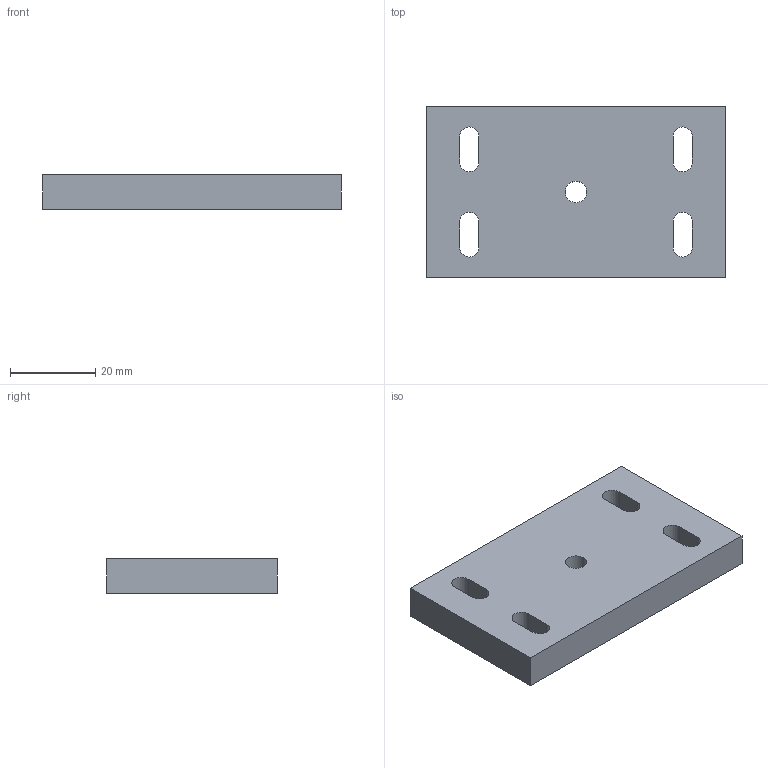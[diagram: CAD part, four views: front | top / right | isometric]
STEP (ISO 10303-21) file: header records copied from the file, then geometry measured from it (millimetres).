
FILE_DESCRIPTION(('Open CASCADE Model'),'2;1');
FILE_NAME('Open CASCADE Shape Model','2026-11-05T14:04:52',('Author'),( 'Open CASCADE'),'Open CASCADE STEP processor 7.8','Open CASCADE 7.8' ,'Unknown');
FILE_SCHEMA(('AUTOMOTIVE_DESIGN { 1 0 10303 214 1 1 1 1 }'));
Length unit declared in the file: millimetre
Products named in the file (1): Open CASCADE STEP translator 7.8 6
Bounding box: 70 x 40 x 8 mm (x, y, z)
Volume: 20870 mm3; surface area: 7939.5 mm2
Topology: 1 solids, 1 shells, 23 faces, 63 edges, 42 vertices
Faces by surface type: plane 14, cylinder 9
Full cylindrical faces by diameter (mm): 5 x1
Entity records: 1632 total; most frequent: CARTESIAN_POINT 351, DIRECTION 239, LINE 153, VECTOR 153, ORIENTED_EDGE 126, PCURVE 126, DEFINITIONAL_REPRESENTATION 126, EDGE_CURVE 63
